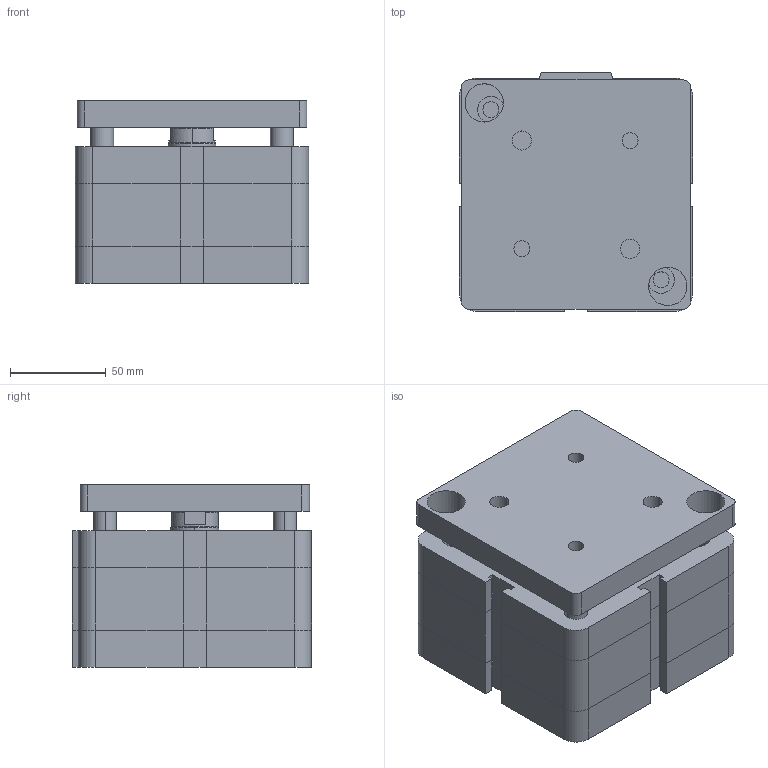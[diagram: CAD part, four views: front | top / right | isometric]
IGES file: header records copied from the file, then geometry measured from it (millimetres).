
Global section: file name: No Iges File Name specified; native system: Autodesk Inventor 2009; preprocessor: AutoDesk Inventor Iges Exporter R2009; author: maffial1; date: 20090420.201258; units: millimetre
Bounding box: 122 x 125 x 95.5 mm (x, y, z)
Volume: 1228589.8 mm3; surface area: 119361 mm2
Topology: 2 solids, 2 shells, 212 faces, 486 edges, 298 vertices
Faces by surface type: plane 111, bspline 67, cylinder 26, cone 8
